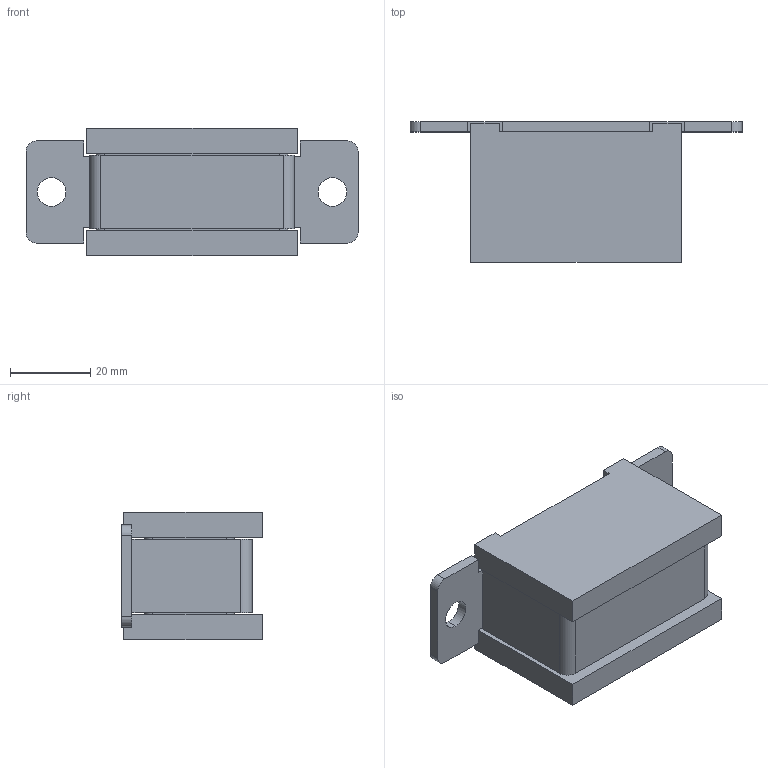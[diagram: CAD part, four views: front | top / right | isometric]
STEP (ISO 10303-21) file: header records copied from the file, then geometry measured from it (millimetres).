
FILE_DESCRIPTION (( 'STEP AP203' ), '1' );
FILE_NAME ('BP0060.STEP', '2018-07-26T20:08:05', ( '' ), ( '' ), 'SwSTEP 2.0', 'SolidWorks 2015', '' );
FILE_SCHEMA (( 'CONFIG_CONTROL_DESIGN' ));
Length unit declared in the file: inch
Products named in the file (1): BP0060
Bounding box: 82.55 x 34.92 x 31.75 mm (x, y, z)
Volume: 49240 mm3; surface area: 24652.4 mm2
Topology: 6 solids, 6 shells, 92 faces, 224 edges, 144 vertices
Faces by surface type: plane 72, cylinder 20
Entity records: 2737 total; most frequent: CARTESIAN_POINT 461, DIRECTION 450, ORIENTED_EDGE 448, EDGE_CURVE 224, VECTOR 184, LINE 184, VERTEX_POINT 144, AXIS2_PLACEMENT_3D 133
